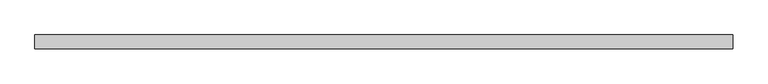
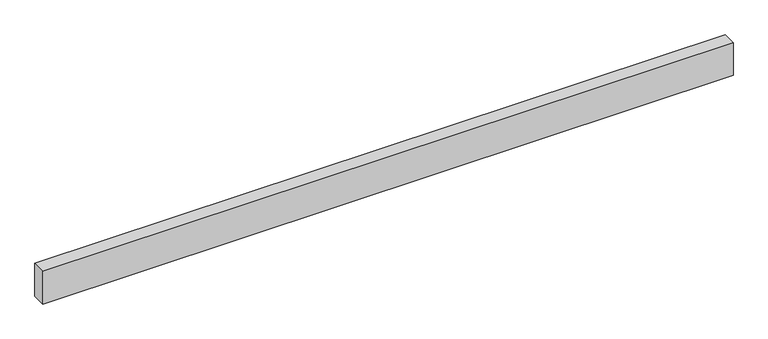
"""IFC4 building model written with IfcOpenShell, lengths in millimetres: proxy geometry, Кабель-каналы_магистральные_цвет-белый : Кабель-канал магистральный 100х40 белый."""

from ifc_helpers import new_model, si_unit, origin, origin_with_axes, place, context, project, spatial, polyline, outline, extrude, source, transform, mapped, element, save


def generic_models_274725a3(model_context):
    return source(origin(), model_context, "Body", "SweptSolid", [
        extrude(outline(polyline([(2000.0, -40.0), (0.0, -40.0), (0.0, 0.0), (2000.0, 0.0), (2000.0, -40.0)])), origin_with_axes(), (0.0, 0.0, 1.0), 100.0),
    ])


if __name__ == "__main__":
    model = new_model("IFC4")
    model_context = context("Model", 3, world=origin())
    ifc_project = project(units=[si_unit("LENGTHUNIT", "METRE", prefix="MILLI")], contexts=[model_context])
    site = spatial("IfcSite", under=ifc_project)
    building = spatial("IfcBuilding", under=site)
    placement = place(None, origin())
    generic_models_shape = generic_models_274725a3(model_context)
    element("IfcBuildingElementProxy", 1, Name="Кабель-каналы_магистральные_цвет-белый : Кабель-канал магистральный 100х40 белый", ObjectType="Кабель-каналы_магистральные_цвет-белый : Кабель-канал магистральный 100х40 белый", at=placement, inside=building, context=model_context, shape_type="MappedRepresentation", body=[
        mapped(generic_models_shape, transform((0.0, 0.0, 0.0), x_axis=(1.0, 0.0, 0.0), y_axis=(0.0, 1.0, 0.0), z_axis=(0.0, 0.0, 1.0))),
    ])
    save(model, "model.ifc")
